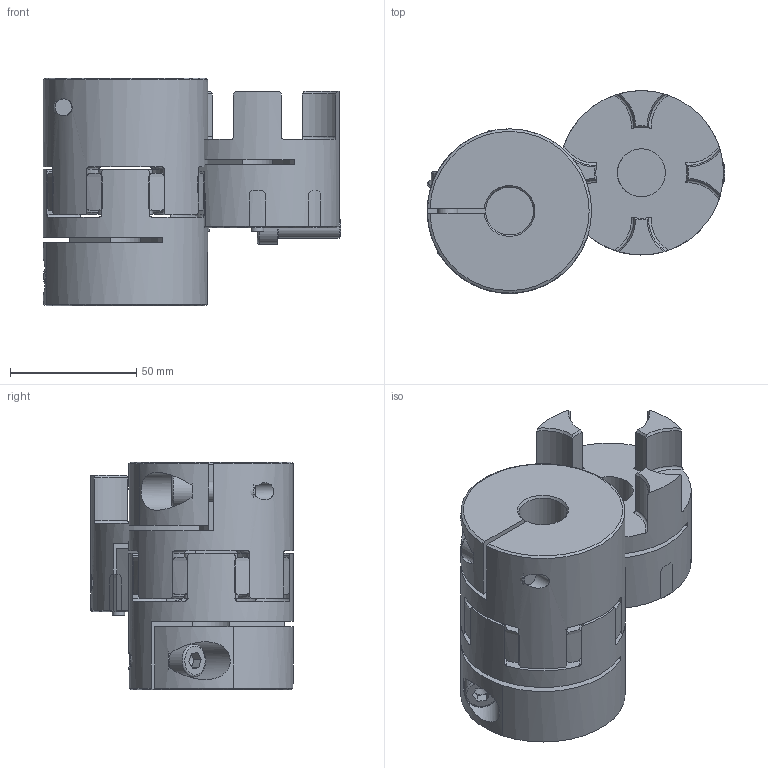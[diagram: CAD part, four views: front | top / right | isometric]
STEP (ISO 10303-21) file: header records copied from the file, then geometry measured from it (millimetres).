
FILE_DESCRIPTION( ( 'Unknown' ), '1' );
FILE_NAME( 'C:/Dokumente und Einstellungen/Sven/Desktop/homepage/cad - homepage/KBE2/KBE2-28.stp', 'Unknown', ( 'Unknown' ), ( 'Unknown' ), 'XStep 1.0', 'Unknown', ' ' );
FILE_SCHEMA( ( 'automotive_design' ) );
Length unit declared in the file: millimetre
Products named in the file (4): Assem1; Zahnkranz EK28_Standard; KN28_Standard; Socket Head Cap Screw_DIN_DIN 912 M8 x 25 --- 25C
Bounding box: 117.7 x 80.14 x 90 mm (x, y, z)
Volume: 387027.1 mm3; surface area: 95554 mm2
Topology: 8 solids, 8 shells, 393 faces, 1016 edges, 662 vertices
Faces by surface type: cylinder 147, cone 114, plane 102, torus 30
Full cylindrical faces by diameter (mm): 5 x16, 6.8 x3, 8 x3, 8.2 x3, 13 x3, 19 x3, 30 x4, 65 x3
Entity records: 5398 total; most frequent: CARTESIAN_POINT 1401, DIRECTION 807, ORIENTED_EDGE 764, EDGE_CURVE 382, AXIS2_PLACEMENT_3D 362, VERTEX_POINT 262, EDGE_LOOP 197, CIRCLE 197
